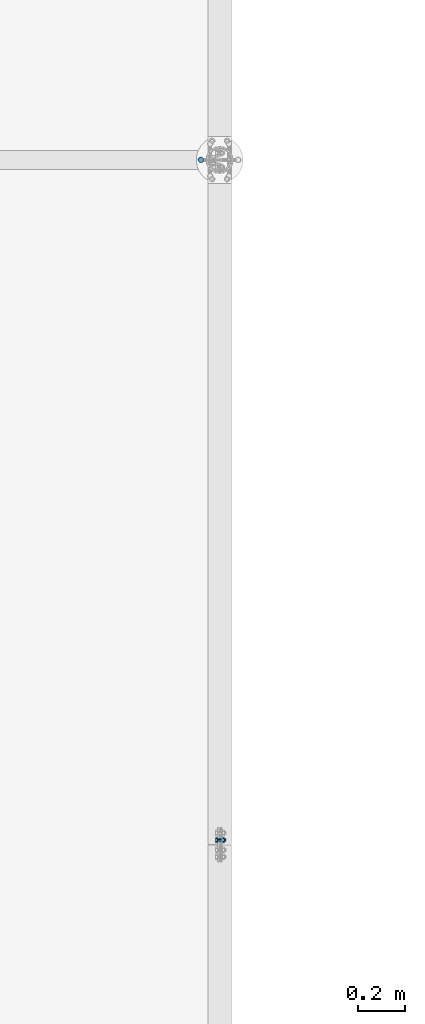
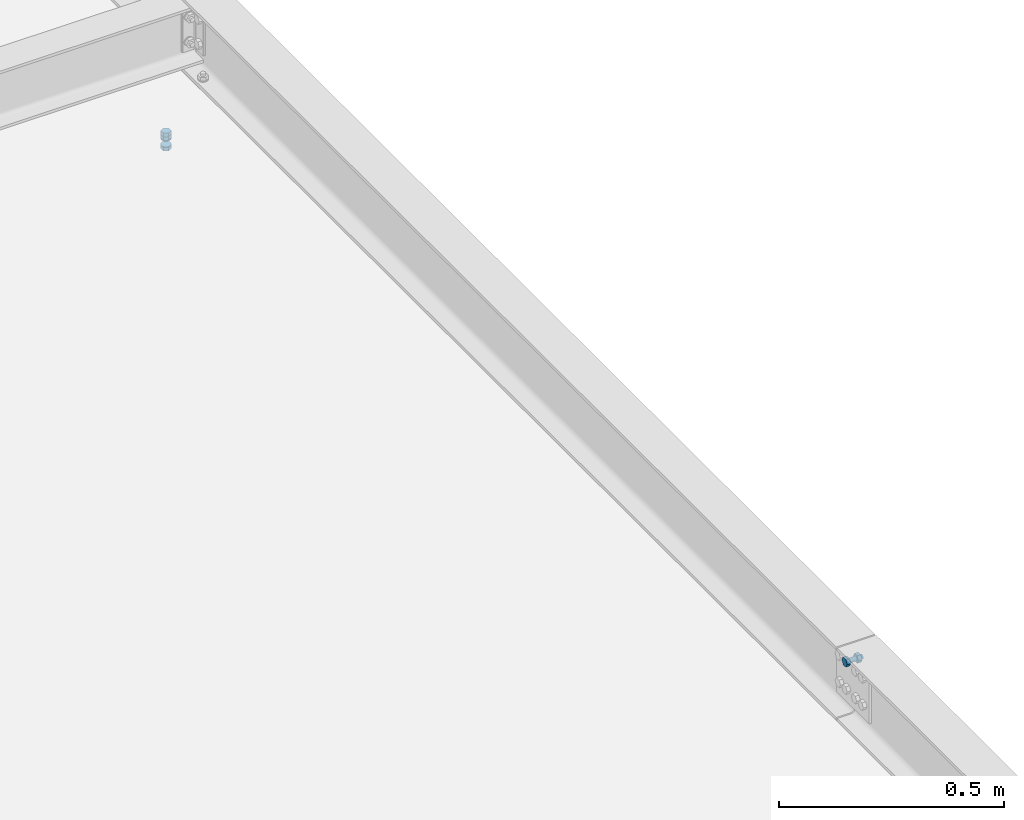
# One storey, part 78 of 84: 8 mechanical fasteners.
"""IFC4 building model written with IfcOpenShell, lengths in metres."""

import ifcopenshell
import ifcopenshell.guid

model = None  # the IFC model being written
_history = None  # IfcOwnerHistory: only IFC2X3 demands one
_inside = {}  # id of a spatial element -> (the spatial element, [elements in it])
_under = {}  # id of a project, library or spatial element -> (it, [spatial elements below it])
_declared = {}  # id of a project -> (the project, [libraries it declares])
_typed = {}  # id of a type object -> (the type object, [elements of that type])
_made_of = {}  # id of a material, layer set ... -> (it, [elements and type objects made of it])


def new_model(schema):
    """Start an empty IFC model of exactly this schema.

    Asked for "IFC4X3", IfcOpenShell would pick the latest addendum, in which some entities
    have other attributes; the version numbers below select the first issue.
    IFC2X3 requires an IfcOwnerHistory on every rooted entity: one is made here for all.
    """
    global model, _history
    if schema == "IFC4X3":
        model = ifcopenshell.file(schema_version=(4, 3, 0, 0))
    else:
        model = ifcopenshell.file(schema=schema)
    _inside.clear()
    _under.clear()
    _declared.clear()
    _typed.clear()
    _made_of.clear()
    _history = None
    if model.schema == "IFC2X3":
        org = make("IfcOrganization", Name="unknown")
        user = make(
            "IfcPersonAndOrganization",
            ThePerson=make("IfcPerson", FamilyName="unknown"),
            TheOrganization=org,
        )
        app = make(
            "IfcApplication",
            ApplicationDeveloper=org,
            Version="unknown",
            ApplicationFullName="unknown",
            ApplicationIdentifier="unknown",
        )
        _history = make(
            "IfcOwnerHistory",
            OwningUser=user,
            OwningApplication=app,
            ChangeAction="ADDED",
            CreationDate=0,
        )
    return model


def make(cls, **values):
    """One entity of the class cls with the attributes given. An attribute that is None is left unset."""
    return model.create_entity(
        cls, **{name: value for name, value in values.items() if value is not None}
    )


def rooted(cls, **values):
    """An entity with a GlobalId (a new one), such as an element, a storey or a relation."""
    return make(cls, GlobalId=ifcopenshell.guid.new(), OwnerHistory=_history, **values)


def si_unit(unit_type, name, prefix=None):
    """IfcSIUnit, for example si_unit("LENGTHUNIT", "METRE", prefix="MILLI")."""
    return make("IfcSIUnit", UnitType=unit_type, Prefix=prefix, Name=name)


def assignment(units):
    """IfcUnitAssignment: the units of a project."""
    return None if units is None else make("IfcUnitAssignment", Units=units)


def point(xyz):
    """IfcCartesianPoint."""
    return None if xyz is None else make("IfcCartesianPoint", Coordinates=xyz)


def direction(xyz):
    """IfcDirection."""
    return None if xyz is None else make("IfcDirection", DirectionRatios=xyz)


def frame(location, z_axis=None, x_axis=None):
    """IfcAxis2Placement3D, a coordinate frame: its origin and axes. An axis left out is left unset."""
    return make(
        "IfcAxis2Placement3D",
        Location=point(location),
        Axis=direction(z_axis),
        RefDirection=direction(x_axis),
    )


def origin_with_axes():
    """The frame at (0, 0, 0) with the z axis (0, 0, 1) and the x axis (1, 0, 0) written out."""
    return frame((0.0, 0.0, 0.0), z_axis=(0.0, 0.0, 1.0), x_axis=(1.0, 0.0, 0.0))


def place(relative_to, where):
    """IfcLocalPlacement: puts the frame where relative to a parent placement (None: the world)."""
    return make(
        "IfcLocalPlacement", PlacementRelTo=relative_to, RelativePlacement=where
    )


def context(
    kind, dimensions, precision=None, world=None, true_north=None, identifier=None
):
    """IfcGeometricRepresentationContext, for example the 3D "Model" context."""
    return make(
        "IfcGeometricRepresentationContext",
        ContextIdentifier=identifier,
        ContextType=kind,
        CoordinateSpaceDimension=dimensions,
        Precision=precision,
        WorldCoordinateSystem=world,
        TrueNorth=true_north,
    )


def project(units=None, contexts=None):
    """IfcProject with its units and contexts."""
    return rooted(
        "IfcProject",
        Name="project",
        RepresentationContexts=contexts,
        UnitsInContext=assignment(units),
    )


def spatial(cls, under=None, at=None, **own):
    """A site, building, storey or space (cls), placed at a placement, below another one or the project."""
    s = rooted(cls, ObjectPlacement=at, **own)
    if under is not None:
        _under.setdefault(under.id(), (under, []))[1].append(s)
    return s


def polyline(points):
    """IfcPolyline through the points."""
    return make("IfcPolyline", Points=[point(p) for p in points])


def outline(outer, holes=None, kind="AREA"):
    """IfcArbitraryClosedProfileDef: a profile drawn as a closed curve; with holes, ...WithVoids."""
    if holes is None:
        return make("IfcArbitraryClosedProfileDef", ProfileType=kind, OuterCurve=outer)
    return make(
        "IfcArbitraryProfileDefWithVoids",
        ProfileType=kind,
        OuterCurve=outer,
        InnerCurves=holes,
    )


def extrude(swept, where, along, depth):
    """IfcExtrudedAreaSolid: the profile swept, set in the frame where, extruded along a direction by depth."""
    return make(
        "IfcExtrudedAreaSolid",
        SweptArea=swept,
        Position=where,
        ExtrudedDirection=direction(along),
        Depth=depth,
    )


def shape(context_of_items, identifier, shape_type, items):
    """IfcShapeRepresentation: the items that make up one representation, for example the "Body"."""
    return make(
        "IfcShapeRepresentation",
        ContextOfItems=context_of_items,
        RepresentationIdentifier=identifier,
        RepresentationType=shape_type,
        Items=items,
    )


def made_of(thing, what):
    """Note that an element or type object is made of a material, layer set ...; save() writes the relation."""
    if what is not None:
        _made_of.setdefault(what.id(), (what, []))[1].append(thing)
    return thing


def type_object(cls, material=None, **own):
    """A type object (cls), such as IfcWallType, which elements share."""
    return made_of(rooted(cls, **own), material)


def element(
    cls,
    number,
    at=None,
    inside=None,
    cuts=None,
    type_object=None,
    material=None,
    context=None,
    identifier="Body",
    shape_type=None,
    held_by="IfcProductDefinitionShape",
    body=None,
    shapes=None,
    **own,
):
    """One element of the class cls, such as IfcWall. Its Tag is "e" and its number.

    at: its placement. inside: the storey or other place that contains it. cuts: it is an
    opening in that element (IfcRelVoidsElement). A single representation is given by context,
    identifier, shape_type and body (its items); several are given by shapes. held_by: the class
    of the entity that holds the representations. save() writes the other relations.
    """
    e = rooted(cls, Tag="e%d" % number, ObjectPlacement=at, **own)
    if body is not None:
        shapes = [shape(context, identifier, shape_type, body)]
    if shapes is not None:
        e.Representation = make(held_by, Representations=shapes)
    if inside is not None:
        _inside.setdefault(inside.id(), (inside, []))[1].append(e)
    if cuts is not None:
        rooted(
            "IfcRelVoidsElement", RelatingBuildingElement=cuts, RelatedOpeningElement=e
        )
    if type_object is not None:
        _typed.setdefault(type_object.id(), (type_object, []))[1].append(e)
    return made_of(e, material)


def aggregate(whole, parts):
    """IfcRelAggregates: a whole, such as a stair, and the parts it consists of."""
    return rooted("IfcRelAggregates", RelatingObject=whole, RelatedObjects=parts)


def save(model, path):
    """Write the relations noted so far, then the file.

    IfcRelAggregates (storeys below a building ...), IfcRelContainedInSpatialStructure (elements
    in a storey), IfcRelDefinesByType, IfcRelAssociatesMaterial and IfcRelDeclares: one each for
    every whole, place, type object, material and project.
    """
    for whole, parts in _under.values():
        aggregate(whole, parts)
    for where, things in _inside.values():
        rooted(
            "IfcRelContainedInSpatialStructure",
            RelatedElements=things,
            RelatingStructure=where,
        )
    for kind, things in _typed.values():
        rooted("IfcRelDefinesByType", RelatedObjects=things, RelatingType=kind)
    for what, things in _made_of.values():
        rooted("IfcRelAssociatesMaterial", RelatedObjects=things, RelatingMaterial=what)
    for by, libraries in _declared.values():
        rooted("IfcRelDeclares", RelatingContext=by, RelatedDefinitions=libraries)
    model.write(path)


model = new_model("IFC4")

# Units and contexts
model_context = context("Model", 3, precision=1e-05, world=origin_with_axes())
ifc_project = project(units=[si_unit("LENGTHUNIT", "METRE"), si_unit("AREAUNIT", "SQUARE_METRE"), si_unit("VOLUMEUNIT", "CUBIC_METRE"), si_unit("MASSUNIT", "GRAM", prefix="KILO"), si_unit("TIMEUNIT", "SECOND"), si_unit("PLANEANGLEUNIT", "RADIAN"), si_unit("SOLIDANGLEUNIT", "STERADIAN"), si_unit("THERMODYNAMICTEMPERATUREUNIT", "DEGREE_CELSIUS")], contexts=[model_context])

# Site, building, storey
placement_1 = place(None, origin_with_axes())
site = spatial("IfcSite", under=ifc_project, at=placement_1, Name="Italia", CompositionType="ELEMENT")
building = spatial("IfcBuilding", under=site, at=placement_1, Name="Tettoia", CompositionType="ELEMENT")
storey_placement = place(None, frame((0.0, 0.0, 4.199999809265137), z_axis=(0.0, 0.0, 1.0), x_axis=(1.0, 0.0, 0.0)))
storey = spatial("IfcBuildingStorey", under=building, at=storey_placement, Name="Storey 1", CompositionType="ELEMENT", Elevation=4.199999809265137)

# Mechanical fasteners
mechanical_fastener_type_1 = type_object("IfcMechanicalFastenerType", Name="Collegamento -015_0115", PredefinedType="BOLT")
placement_2 = place(placement_1, origin_with_axes())
mechanical_fastener_1_placement = place(placement_2, origin_with_axes())
element("IfcMechanicalFastener", 1, at=mechanical_fastener_1_placement, inside=storey, type_object=mechanical_fastener_type_1, Name="Collegamento -015_0115", NominalDiameter=0.0119992, context=model_context, shape_type="SweptSolid", body=[
    extrude(outline(polyline([(0.0, 0.0), (-0.012001, 0.0), (-0.0179996, 0.0103922), (-0.012001, 0.0207846), (0.0, 0.0207846), (0.00599861, 0.0103922), (0.0, 0.0)])), frame((4.00039, 19.826, 4.017), z_axis=(0.0, 0.0, 1.0), x_axis=(0.0, 1.0, 0.0)), (0.0, 0.0, 1.0), 0.00959969),
])
mechanical_fastener_type_2 = type_object("IfcMechanicalFastenerType", Name="Collegamento -015_0115", PredefinedType="BOLT")
mechanical_fastener_2_placement = place(placement_2, origin_with_axes())
element("IfcMechanicalFastener", 2, at=mechanical_fastener_2_placement, inside=storey, type_object=mechanical_fastener_type_2, Name="Collegamento -015_0115", NominalDiameter=0.0119992, context=model_context, shape_type="SweptSolid", body=[
    extrude(outline(polyline([(0.0, 0.0), (-0.012001, 0.0), (-0.0179996, 0.0103922), (-0.012001, 0.0207846), (0.0, 0.0207846), (0.00599861, 0.0103922), (0.0, 0.0)])), frame((4.00039, 19.826, 4.0266), z_axis=(0.0, 0.0, 1.0), x_axis=(0.0, 1.0, 0.0)), (0.0, 0.0, 1.0), 0.00960016),
])
mechanical_fastener_type_3 = type_object("IfcMechanicalFastenerType", Name="Collegamento -015_0115", PredefinedType="BOLT")
mechanical_fastener_3_placement = place(placement_2, origin_with_axes())
element("IfcMechanicalFastener", 3, at=mechanical_fastener_3_placement, inside=storey, type_object=mechanical_fastener_type_3, Name="Collegamento -015_0115", NominalDiameter=0.0119992, context=model_context, shape_type="SweptSolid", body=[
    extrude(outline(polyline([(0.0, 0.0), (-0.012001, 0.0), (-0.0179996, 0.0103922), (-0.012001, 0.0207846), (0.0, 0.0207846), (0.00599861, 0.0103922), (0.0, 0.0)])), frame((4.00039, 19.826, 3.9884), z_axis=(0.0, 0.0, 1.0), x_axis=(0.0, 1.0, 0.0)), (0.0, 0.0, 1.0), 0.00959992),
])
mechanical_fastener_type_4 = type_object("IfcMechanicalFastenerType", Name="Collegamento -015_0115", PredefinedType="BOLT")
mechanical_fastener_4_placement = place(placement_2, origin_with_axes())
element("IfcMechanicalFastener", 4, at=mechanical_fastener_4_placement, inside=storey, type_object=mechanical_fastener_type_4, Name="Collegamento -015_0115", NominalDiameter=0.024, context=model_context, shape_type="SweptSolid", body=[
    extrude(outline(polyline([(0.0, 0.0), (-0.000408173, -0.00310588), (-0.00160599, -0.00600004), (-0.00351334, -0.00848532), (-0.00599861, -0.0103922), (-0.00889397, -0.011591), (-0.0119991, -0.0120001), (-0.0151043, -0.011591), (-0.0179996, -0.0103922), (-0.0204849, -0.00848532), (-0.0223923, -0.00600004), (-0.0235901, -0.00310588), (-0.0239983, 0.0), (-0.0235901, 0.00310588), (-0.0223923, 0.00600004), (-0.0204849, 0.00848532), (-0.0179996, 0.0103922), (-0.0151043, 0.0115912), (-0.0119991, 0.0120001), (-0.00889397, 0.0115912), (-0.00599861, 0.0103922), (-0.00351334, 0.00848532), (-0.00160599, 0.00600004), (-0.000408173, 0.00310588), (0.0, 0.0)])), frame((3.99, 19.832, 4.015), z_axis=(0.0, 0.0, 1.0), x_axis=(0.0, 1.0, 0.0)), (0.0, 0.0, 1.0), 0.00200033),
])
mechanical_fastener_type_5 = type_object("IfcMechanicalFastenerType", Name="Collegamento -015_0115", PredefinedType="BOLT")
mechanical_fastener_5_placement = place(placement_2, origin_with_axes())
element("IfcMechanicalFastener", 5, at=mechanical_fastener_5_placement, inside=storey, type_object=mechanical_fastener_type_5, Name="Collegamento -015_0115", NominalDiameter=0.024, context=model_context, shape_type="SweptSolid", body=[
    extrude(outline(polyline([(0.0, 0.0), (-0.000408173, -0.00310588), (-0.00160599, -0.00600004), (-0.00351334, -0.00848532), (-0.00599861, -0.0103922), (-0.00889397, -0.011591), (-0.0119991, -0.0120001), (-0.0151043, -0.011591), (-0.0179996, -0.0103922), (-0.0204849, -0.00848532), (-0.0223923, -0.00600004), (-0.0235901, -0.00310588), (-0.0239983, 0.0), (-0.0235901, 0.00310588), (-0.0223923, 0.00600004), (-0.0204849, 0.00848532), (-0.0179996, 0.0103922), (-0.0151043, 0.0115912), (-0.0119991, 0.0120001), (-0.00889397, 0.0115912), (-0.00599861, 0.0103922), (-0.00351334, 0.00848532), (-0.00160599, 0.00600004), (-0.000408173, 0.00310588), (0.0, 0.0)])), frame((3.99, 19.832, 3.998), z_axis=(0.0, 0.0, 1.0), x_axis=(0.0, 1.0, 0.0)), (0.0, 0.0, 1.0), 0.00200009),
])
mechanical_fastener_type_6 = type_object("IfcMechanicalFastenerType", Name="Collegamento 0123_0115", PredefinedType="BOLT")
mechanical_fastener_6_placement = place(placement_2, origin_with_axes())
element("IfcMechanicalFastener", 6, at=mechanical_fastener_6_placement, inside=storey, type_object=mechanical_fastener_type_6, Name="Collegamento 0123_0115", NominalDiameter=0.0119991, context=model_context, shape_type="SweptSolid", body=[
    extrude(outline(polyline([(0.0, 0.0), (0.0119991, 0.0), (0.0179996, -0.0103922), (0.0119991, -0.0207849), (0.0, -0.0207849), (-0.00600052, -0.0103922), (0.0, 0.0)])), frame((4.0612, 16.913, 4.34739), z_axis=(-1.0, 0.0, 0.0), x_axis=(0.0, -1.0, 0.0)), (0.0, 0.0, 1.0), 0.00960016),
])
mechanical_fastener_type_7 = type_object("IfcMechanicalFastenerType", Name="Collegamento 0123_0115", PredefinedType="BOLT")
mechanical_fastener_7_placement = place(placement_2, origin_with_axes())
element("IfcMechanicalFastener", 7, at=mechanical_fastener_7_placement, inside=storey, type_object=mechanical_fastener_type_7, Name="Collegamento 0123_0115", NominalDiameter=0.012, context=model_context, shape_type="SweptSolid", body=[
    extrude(outline(polyline([(0.0, 0.0), (-0.000204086, -0.00155306), (-0.000804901, -0.00299978), (-0.00175858, -0.00424242), (-0.00300026, -0.00519609), (-0.00444794, -0.00579548), (-0.00600052, -0.00600004), (-0.0075531, -0.00579548), (-0.00900078, -0.00519609), (-0.0102425, -0.00424242), (-0.0111961, -0.00299978), (-0.011797, -0.00155306), (-0.012001, 0.0), (-0.011797, 0.00155306), (-0.0111961, 0.00299978), (-0.0102425, 0.00424242), (-0.00900078, 0.00519609), (-0.0075531, 0.00579548), (-0.00600052, 0.00600004), (-0.00444794, 0.00579548), (-0.00300026, 0.00519609), (-0.00175858, 0.00424242), (-0.000804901, 0.00299978), (-0.000204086, 0.00155306), (0.0, 0.0)])), frame((4.0968, 16.901, 4.337), z_axis=(-1.0, 0.0, 0.0), x_axis=(0.0, -1.0, 0.0)), (0.0, 0.0, 1.0), 0.0356002),
])
mechanical_fastener_type_8 = type_object("IfcMechanicalFastenerType", Name="Collegamento 0123_0115", PredefinedType="BOLT")
mechanical_fastener_8_placement = place(placement_2, origin_with_axes())
element("IfcMechanicalFastener", 8, at=mechanical_fastener_8_placement, inside=storey, type_object=mechanical_fastener_type_8, Name="Collegamento 0123_0115", NominalDiameter=0.0119991, context=model_context, shape_type="SweptSolid", body=[
    extrude(outline(polyline([(0.0, 0.0), (0.0119991, 0.0), (0.0179996, -0.0103922), (0.0119991, -0.0207849), (0.0, -0.0207849), (-0.00600052, -0.0103922), (0.0, 0.0)])), frame((4.0904, 16.913, 4.34739), z_axis=(-1.0, 0.0, 0.0), x_axis=(0.0, -1.0, 0.0)), (0.0, 0.0, 1.0), 0.00960016),
])

save(model, "model.ifc")
